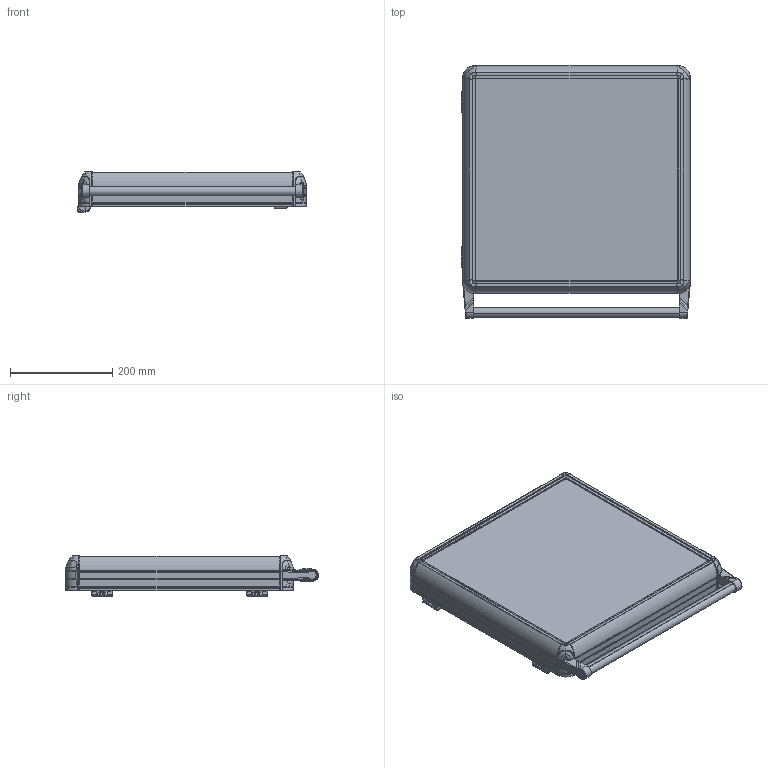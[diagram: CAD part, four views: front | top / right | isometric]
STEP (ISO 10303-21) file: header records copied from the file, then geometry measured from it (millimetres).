
FILE_DESCRIPTION (( 'STEP AP214' ), '1' );
FILE_NAME ('6000-0108.STEP', '2022-08-31T12:50:07', ( '' ), ( '' ), 'SwSTEP 2.0', 'SolidWorks 2022', '' );
FILE_SCHEMA (( 'AUTOMOTIVE_DESIGN' ));
Length unit declared in the file: millimetre
Products named in the file (8): 400X400; HPECO-060-001-395_395; 6000-0108; ECO6000-0000; ARKA_KAPAK_400X400; ECO6000-0100(SAÐ); ECO6000-0100(SOL); boru_425
Assembly tree (11 placements, depth 2):
  6000-0108
    400X400
    HPECO-060-001-395_395  x4
    ECO6000-0100(SOL)
    ECO6000-0100(SAÐ)
    ECO6000-0000  x2
    ARKA_KAPAK_400X400
    boru_425
Bounding box: 449.03 x 495.81 x 79.15 mm (x, y, z)
Volume: 2557690 mm3; surface area: 1184030.2 mm2
Topology: 19 solids, 79 shells, 5289 faces, 14129 edges, 8773 vertices
Faces by surface type: plane 2037, cylinder 1383, bspline 1020, cone 527, torus 276, sphere 46
Entity records: 207816 total; most frequent: CARTESIAN_POINT 58194, ORIENTED_EDGE 23746, DIRECTION 19187, EDGE_CURVE 11873, VERTEX_POINT 7398, AXIS2_PLACEMENT_3D 7011, VECTOR 5165, LINE 5165
